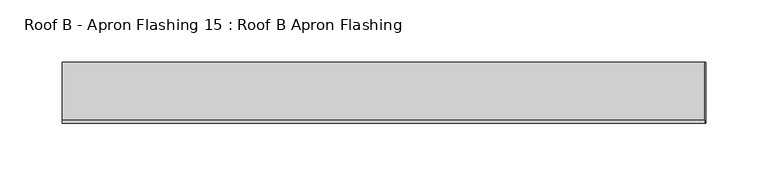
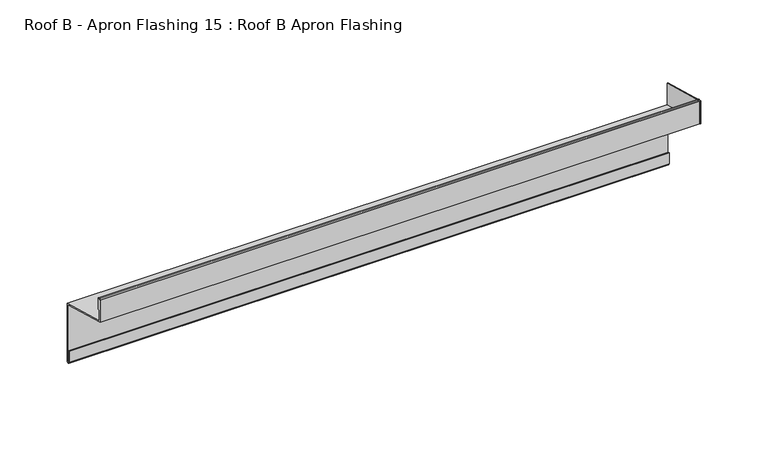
"""IFC4 building model written with IfcOpenShell, lengths in millimetres: proxy geometry, Roof B - Apron Flashing 15 : Roof B Apron Flashing."""

from ifc_helpers import new_model, si_unit, point, frame, frame_2d, origin, place, context, project, spatial, polyline, circle_curve, trimmed, segment, composite_curve, outline, extrude, source, transform, mapped, element, save


def roof_b_apron_flashing_15_roof_b_apron_flashing_0355cb7b(model_context):
    return source(origin(), model_context, "Body", "SweptSolid", [
        extrude(outline(polyline([(-26589.4928264, -873.6339834), (-26589.4928264, -853.130654), (-26540.7391961, -866.1941499), (-26540.7391961, -886.6974792), (-26589.4928264, -873.6339834)])), frame((12337.8825627, 0.0, 0.0), z_axis=(1.0, 0.0, 0.0), x_axis=(0.0, 1.0, 0.0)), (0.0, 0.0, 1.0), 0.8428395),
        extrude(outline(composite_curve([segment(polyline([(-26540.7391961, -885.662203), (-26540.7391961, -937.6563748)]), True, "CONTINUOUS"), segment(trimmed(circle_curve(frame_2d((-26542.2391961, -937.6563748)), 1.5), [point((-26540.7391961, -937.6563748))], [point((-26543.7391961, -937.6563748))], False, "CARTESIAN"), True, "CONTINUOUS"), segment(polyline([(-26543.7391961, -937.6563748), (-26543.7391961, -927.6933761), (-26542.7391961, -927.6933761), (-26542.7391961, -937.6563748)]), True, "CONTINUOUS"), segment(trimmed(circle_curve(frame_2d((-26542.2391961, -937.6563748)), 0.5), [point((-26542.7391961, -937.6563748))], [point((-26541.7391961, -937.6563748))], True, "CARTESIAN"), True, "CONTINUOUS"), segment(polyline([(-26541.7391961, -937.6563748), (-26541.7391961, -886.42953), (-26589.4928264, -873.6339834), (-26589.4928264, -853.3538686)]), True, "CONTINUOUS"), segment(trimmed(circle_curve(frame_2d((-26588.2428264, -853.3538686)), 1.25), [point((-26589.4928264, -853.3538686))], [point((-26586.9928264, -853.3538686))], False, "CARTESIAN"), True, "CONTINUOUS"), segment(polyline([(-26586.9928264, -853.3538686), (-26586.9928264, -862.6360034)]), True, "CONTINUOUS"), segment(trimmed(circle_curve(frame_2d((-26587.4928264, -862.6360034)), 0.5), [point((-26586.9928264, -862.6360034))], [point((-26587.9928264, -862.6360034))], False, "CARTESIAN"), True, "CONTINUOUS"), segment(polyline([(-26587.9928264, -862.6360034), (-26587.9928264, -853.3538686)]), True, "CONTINUOUS"), segment(trimmed(circle_curve(frame_2d((-26588.2428264, -853.3538686)), 0.25), [point((-26587.9928264, -853.3538686))], [point((-26588.4928264, -853.3538686))], True, "CARTESIAN"), True, "CONTINUOUS"), segment(polyline([(-26588.4928264, -853.3538686), (-26588.4928264, -872.8666564), (-26540.7391961, -885.662203)]), True, "CONTINUOUS")], self_intersect=False)), frame((11822.8825627, 0.0, 0.0), z_axis=(1.0, 0.0, 0.0), x_axis=(0.0, 1.0, 0.0)), (0.0, 0.0, 1.0), 515.0),
    ])


if __name__ == "__main__":
    model = new_model("IFC4")
    model_context = context("Model", 3, world=origin())
    ifc_project = project(units=[si_unit("LENGTHUNIT", "METRE", prefix="MILLI")], contexts=[model_context])
    site = spatial("IfcSite", under=ifc_project)
    building = spatial("IfcBuilding", under=site)
    placement = place(None, origin())
    roof_b_apron_flashing_15_roof_b_apron_flashing_shape = roof_b_apron_flashing_15_roof_b_apron_flashing_0355cb7b(model_context)
    element("IfcBuildingElementProxy", 1, Name="Roof B - Apron Flashing 15 : Roof B Apron Flashing", ObjectType="Roof B - Apron Flashing 15 : Roof B Apron Flashing", at=placement, inside=building, context=model_context, shape_type="MappedRepresentation", body=[
        mapped(roof_b_apron_flashing_15_roof_b_apron_flashing_shape, transform((0.0, 0.0, 0.0), x_axis=(1.0, 0.0, 0.0), y_axis=(0.0, 1.0, 0.0), z_axis=(0.0, 0.0, 1.0))),
    ])
    save(model, "model.ifc")
